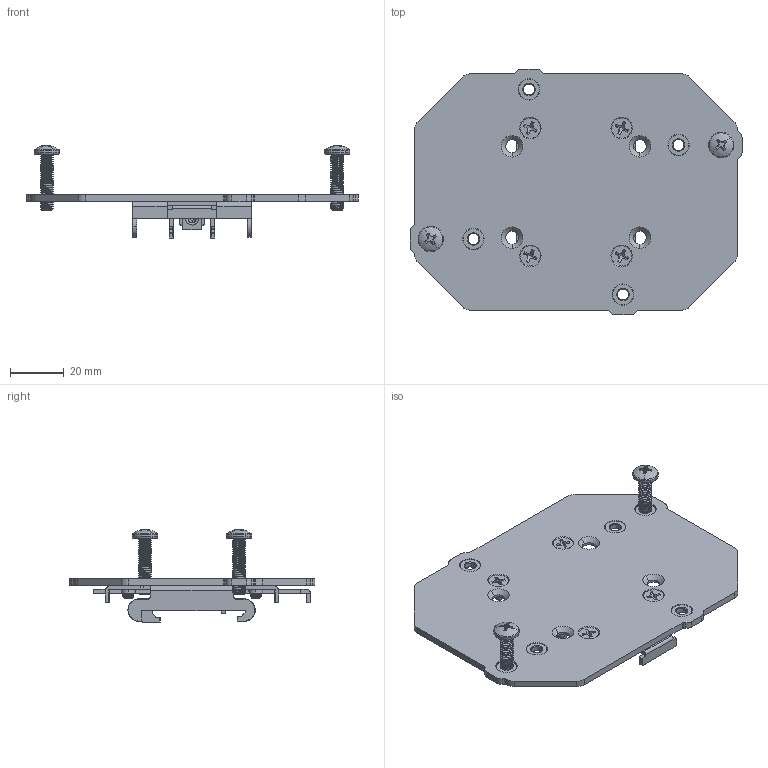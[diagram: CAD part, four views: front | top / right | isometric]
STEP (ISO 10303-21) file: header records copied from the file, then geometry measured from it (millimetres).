
FILE_DESCRIPTION (( 'STEP AP214' ), '1' );
FILE_NAME ('DIN-MNT (Landscape).STEP', '2020-07-16T16:05:22', ( 'Tom Dombroski' ), ( '' ), 'SwSTEP 2.0', 'SolidWorks 2013', '' );
FILE_SCHEMA (( 'AUTOMOTIVE_DESIGN' ));
Length unit declared in the file: inch
Products named in the file (1): DIN-MNT (Landscape)
Bounding box: 123.37 x 91.36 x 34.5 mm (x, y, z)
Volume: 32472 mm3; surface area: 35495.2 mm2
Topology: 16 solids, 16 shells, 1416 faces, 3779 edges, 2387 vertices
Faces by surface type: cylinder 733, plane 382, cone 138, bspline 127, torus 32, sphere 4
Entity records: 76219 total; most frequent: CARTESIAN_POINT 25251, ORIENTED_EDGE 7498, DIRECTION 6166, EDGE_CURVE 3749, VERTEX_POINT 2387, AXIS2_PLACEMENT_3D 2252, VECTOR 1662, LINE 1662
